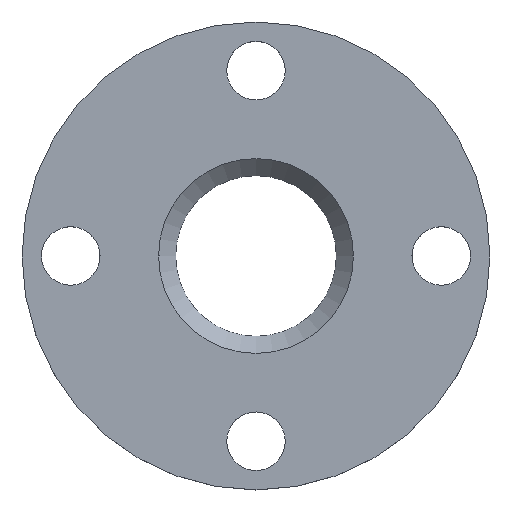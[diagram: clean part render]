
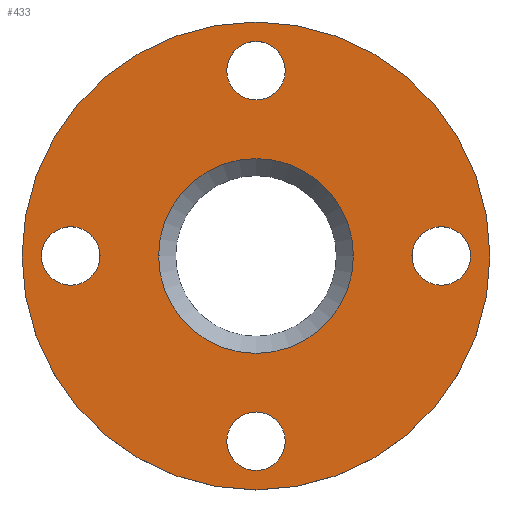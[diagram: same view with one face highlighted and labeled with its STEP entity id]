
A CAD part, top view. The second image highlights one B-rep face of the part: STEP entity #433.
In plain terms, the highlighted planar face has unit normal (0, 0, 1).
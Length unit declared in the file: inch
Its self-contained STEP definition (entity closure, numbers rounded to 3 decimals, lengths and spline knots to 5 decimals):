
#9 = EDGE_CURVE ( 'NONE', #499, #333, #86, .T. ) ;
#13 = DIRECTION ( 'NONE',  ( 1., 0., 0. ) ) ;
#14 = FACE_OUTER_BOUND ( 'NONE', #126, .T. ) ;
#17 = DIRECTION ( 'NONE',  ( 0., 0., 1. ) ) ;
#26 = ORIENTED_EDGE ( 'NONE', *, *, #120, .T. ) ;
#35 = CARTESIAN_POINT ( 'NONE',  ( 2.375, 0., 0. ) ) ;
#55 = CARTESIAN_POINT ( 'NONE',  ( 0., -2.375, 0. ) ) ;
#56 = DIRECTION ( 'NONE',  ( 0., 0., 1. ) ) ;
#57 = CIRCLE ( 'NONE', #342, 0.375 ) ;
#65 = EDGE_CURVE ( 'NONE', #329, #474, #203, .T. ) ;
#67 = ORIENTED_EDGE ( 'NONE', *, *, #332, .F. ) ;
#70 = DIRECTION ( 'NONE',  ( 1., 0., 0. ) ) ;
#71 = ORIENTED_EDGE ( 'NONE', *, *, #186, .T. ) ;
#76 = DIRECTION ( 'NONE',  ( 0., 0., 1. ) ) ;
#79 = DIRECTION ( 'NONE',  ( 0., 0., 1. ) ) ;
#85 = DIRECTION ( 'NONE',  ( 0., 0., 1. ) ) ;
#86 = CIRCLE ( 'NONE', #432, 1.249 ) ;
#88 = AXIS2_PLACEMENT_3D ( 'NONE', #515, #125, #123 ) ;
#89 = EDGE_CURVE ( 'NONE', #255, #213, #412, .T. ) ;
#90 = PLANE ( 'NONE',  #290 ) ;
#93 = DIRECTION ( 'NONE',  ( 1., 0., 0. ) ) ;
#95 = AXIS2_PLACEMENT_3D ( 'NONE', #219, #56, #533 ) ;
#96 = DIRECTION ( 'NONE',  ( 0., 0., 1. ) ) ;
#98 = CIRCLE ( 'NONE', #399, 0.375 ) ;
#101 = DIRECTION ( 'NONE',  ( 0., 0., 1. ) ) ;
#105 = CARTESIAN_POINT ( 'NONE',  ( 0., 2.375, 0. ) ) ;
#106 = ORIENTED_EDGE ( 'NONE', *, *, #252, .F. ) ;
#109 = ORIENTED_EDGE ( 'NONE', *, *, #65, .F. ) ;
#110 = DIRECTION ( 'NONE',  ( 0., 0., 1. ) ) ;
#111 = ORIENTED_EDGE ( 'NONE', *, *, #166, .F. ) ;
#119 = AXIS2_PLACEMENT_3D ( 'NONE', #543, #101, #331 ) ;
#120 = EDGE_CURVE ( 'NONE', #172, #138, #145, .T. ) ;
#123 = DIRECTION ( 'NONE',  ( 1., 0., 0. ) ) ;
#124 = ORIENTED_EDGE ( 'NONE', *, *, #536, .F. ) ;
#125 = DIRECTION ( 'NONE',  ( 0., 0., -1. ) ) ;
#126 = EDGE_LOOP ( 'NONE', ( #71, #26 ) ) ;
#129 = FACE_BOUND ( 'NONE', #235, .T. ) ;
#132 = CARTESIAN_POINT ( 'NONE',  ( -2.75, 0., 0. ) ) ;
#133 = DIRECTION ( 'NONE',  ( 0., 0., -1. ) ) ;
#138 = VERTEX_POINT ( 'NONE', #528 ) ;
#139 = CARTESIAN_POINT ( 'NONE',  ( 0., 0., 0. ) ) ;
#140 = VERTEX_POINT ( 'NONE', #180 ) ;
#143 = DIRECTION ( 'NONE',  ( 1., 0., 0. ) ) ;
#145 = CIRCLE ( 'NONE', #95, 3. ) ;
#147 = CIRCLE ( 'NONE', #88, 1.249 ) ;
#158 = AXIS2_PLACEMENT_3D ( 'NONE', #356, #221, #269 ) ;
#166 = EDGE_CURVE ( 'NONE', #207, #549, #57, .T. ) ;
#171 = EDGE_CURVE ( 'NONE', #474, #329, #464, .T. ) ;
#172 = VERTEX_POINT ( 'NONE', #404 ) ;
#180 = CARTESIAN_POINT ( 'NONE',  ( 2.75, 0., 0. ) ) ;
#186 = EDGE_CURVE ( 'NONE', #138, #172, #284, .T. ) ;
#187 = CARTESIAN_POINT ( 'NONE',  ( 2., 0., 0. ) ) ;
#198 = CARTESIAN_POINT ( 'NONE',  ( 0.375, -2.375, 0. ) ) ;
#203 = CIRCLE ( 'NONE', #158, 0.375 ) ;
#205 = ORIENTED_EDGE ( 'NONE', *, *, #171, .F. ) ;
#207 = VERTEX_POINT ( 'NONE', #234 ) ;
#213 = VERTEX_POINT ( 'NONE', #198 ) ;
#219 = CARTESIAN_POINT ( 'NONE',  ( 0., 0., 0. ) ) ;
#221 = DIRECTION ( 'NONE',  ( 0., 0., 1. ) ) ;
#233 = FACE_BOUND ( 'NONE', #428, .T. ) ;
#234 = CARTESIAN_POINT ( 'NONE',  ( -0.375, 2.375, 0. ) ) ;
#235 = EDGE_LOOP ( 'NONE', ( #109, #205 ) ) ;
#236 = CARTESIAN_POINT ( 'NONE',  ( 0., 0., 0. ) ) ;
#237 = EDGE_LOOP ( 'NONE', ( #106, #507 ) ) ;
#247 = CIRCLE ( 'NONE', #276, 0.375 ) ;
#248 = DIRECTION ( 'NONE',  ( 1., 0., 0. ) ) ;
#252 = EDGE_CURVE ( 'NONE', #213, #255, #546, .T. ) ;
#255 = VERTEX_POINT ( 'NONE', #466 ) ;
#269 = DIRECTION ( 'NONE',  ( 1., 0., 0. ) ) ;
#271 = EDGE_CURVE ( 'NONE', #333, #499, #147, .T. ) ;
#275 = AXIS2_PLACEMENT_3D ( 'NONE', #236, #17, #70 ) ;
#276 = AXIS2_PLACEMENT_3D ( 'NONE', #35, #79, #248 ) ;
#284 = CIRCLE ( 'NONE', #275, 3. ) ;
#290 = AXIS2_PLACEMENT_3D ( 'NONE', #139, #408, #530 ) ;
#291 = CARTESIAN_POINT ( 'NONE',  ( 1.249, 0., 0. ) ) ;
#299 = CARTESIAN_POINT ( 'NONE',  ( -2., 0., 0. ) ) ;
#307 = FACE_BOUND ( 'NONE', #237, .T. ) ;
#325 = ORIENTED_EDGE ( 'NONE', *, *, #9, .T. ) ;
#327 = ORIENTED_EDGE ( 'NONE', *, *, #349, .F. ) ;
#328 = DIRECTION ( 'NONE',  ( 0., 0., 1. ) ) ;
#329 = VERTEX_POINT ( 'NONE', #299 ) ;
#331 = DIRECTION ( 'NONE',  ( 1., 0., 0. ) ) ;
#332 = EDGE_CURVE ( 'NONE', #419, #140, #380, .T. ) ;
#333 = VERTEX_POINT ( 'NONE', #291 ) ;
#342 = AXIS2_PLACEMENT_3D ( 'NONE', #105, #328, #13 ) ;
#346 = ORIENTED_EDGE ( 'NONE', *, *, #271, .T. ) ;
#349 = EDGE_CURVE ( 'NONE', #140, #419, #247, .T. ) ;
#354 = CARTESIAN_POINT ( 'NONE',  ( 0., 0., 0. ) ) ;
#356 = CARTESIAN_POINT ( 'NONE',  ( -2.375, 0., 0. ) ) ;
#368 = FACE_BOUND ( 'NONE', #480, .T. ) ;
#380 = CIRCLE ( 'NONE', #397, 0.375 ) ;
#381 = CARTESIAN_POINT ( 'NONE',  ( 0.375, 2.375, 0. ) ) ;
#385 = CARTESIAN_POINT ( 'NONE',  ( 2.375, 0., 0. ) ) ;
#388 = DIRECTION ( 'NONE',  ( 1., 0., 0. ) ) ;
#397 = AXIS2_PLACEMENT_3D ( 'NONE', #385, #76, #388 ) ;
#399 = AXIS2_PLACEMENT_3D ( 'NONE', #405, #85, #542 ) ;
#401 = DIRECTION ( 'NONE',  ( 1., 0., 0. ) ) ;
#404 = CARTESIAN_POINT ( 'NONE',  ( -3., 0., 0. ) ) ;
#405 = CARTESIAN_POINT ( 'NONE',  ( 0., 2.375, 0. ) ) ;
#408 = DIRECTION ( 'NONE',  ( 0., 0., 1. ) ) ;
#412 = CIRCLE ( 'NONE', #444, 0.375 ) ;
#419 = VERTEX_POINT ( 'NONE', #187 ) ;
#428 = EDGE_LOOP ( 'NONE', ( #346, #325 ) ) ;
#432 = AXIS2_PLACEMENT_3D ( 'NONE', #354, #133, #93 ) ;
#433 = ADVANCED_FACE ( 'NONE', ( #233, #129, #307, #487, #368, #14 ), #90, .T. ) ;
#444 = AXIS2_PLACEMENT_3D ( 'NONE', #55, #96, #401 ) ;
#460 = CARTESIAN_POINT ( 'NONE',  ( -2.375, 0., 0. ) ) ;
#464 = CIRCLE ( 'NONE', #535, 0.375 ) ;
#466 = CARTESIAN_POINT ( 'NONE',  ( -0.375, -2.375, 0. ) ) ;
#474 = VERTEX_POINT ( 'NONE', #132 ) ;
#480 = EDGE_LOOP ( 'NONE', ( #124, #111 ) ) ;
#482 = CARTESIAN_POINT ( 'NONE',  ( -1.249, 0., 0. ) ) ;
#487 = FACE_BOUND ( 'NONE', #505, .T. ) ;
#499 = VERTEX_POINT ( 'NONE', #482 ) ;
#505 = EDGE_LOOP ( 'NONE', ( #327, #67 ) ) ;
#507 = ORIENTED_EDGE ( 'NONE', *, *, #89, .F. ) ;
#515 = CARTESIAN_POINT ( 'NONE',  ( 0., 0., 0. ) ) ;
#528 = CARTESIAN_POINT ( 'NONE',  ( 3., 0., 0. ) ) ;
#530 = DIRECTION ( 'NONE',  ( 1., 0., 0. ) ) ;
#533 = DIRECTION ( 'NONE',  ( 1., 0., 0. ) ) ;
#535 = AXIS2_PLACEMENT_3D ( 'NONE', #460, #110, #143 ) ;
#536 = EDGE_CURVE ( 'NONE', #549, #207, #98, .T. ) ;
#542 = DIRECTION ( 'NONE',  ( 1., 0., 0. ) ) ;
#543 = CARTESIAN_POINT ( 'NONE',  ( 0., -2.375, 0. ) ) ;
#546 = CIRCLE ( 'NONE', #119, 0.375 ) ;
#549 = VERTEX_POINT ( 'NONE', #381 ) ;
